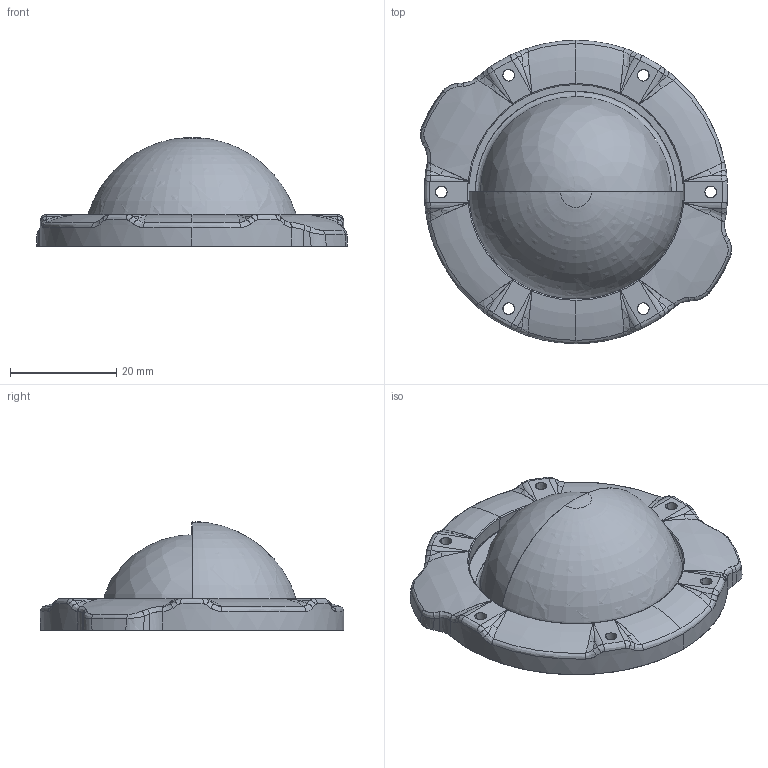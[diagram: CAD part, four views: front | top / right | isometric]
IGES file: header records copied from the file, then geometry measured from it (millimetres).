
Start section: SolidWorks IGES file using analytic representation for surfaces
Global section: file name: C:\Users\Jonathan\Dropbox\BR-Engineering\PROJECTS\WTE2\MODELS\RELEASES\PUBLIC\WTE2-ASM-DOME-R1.IGS; native system: SolidWorks 2016; preprocessor: SolidWorks 2016; author: Jonathan; date: 171228.122511; units: millimetre
Bounding box: 58.64 x 57.16 x 20.5 mm (x, y, z)
Surface area: 10621.5 mm2 (no closed solid volume)
Topology: 0 solids, 0 shells, 267 faces, 2467 edges, 2465 vertices
Faces by surface type: bspline 219, revolution 48
